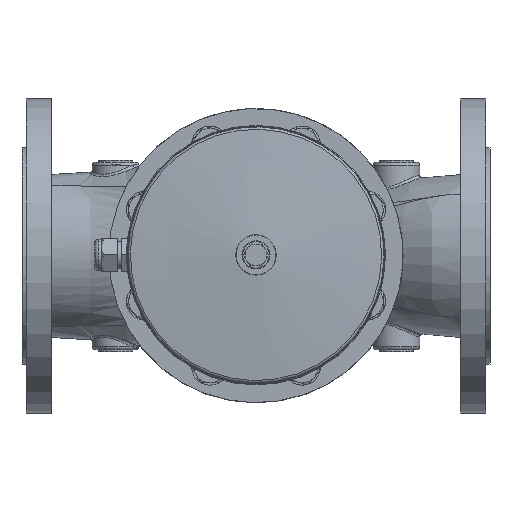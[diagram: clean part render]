
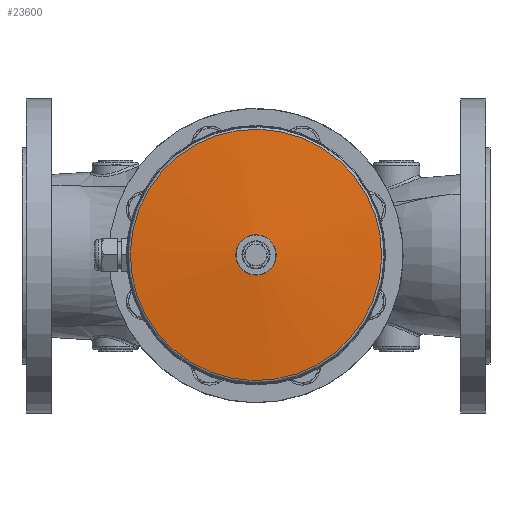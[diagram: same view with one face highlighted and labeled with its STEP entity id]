
A CAD part, top view. The second image highlights one B-rep face of the part: STEP entity #23600.
In plain terms, the highlighted conical face has half-angle 84.937 degrees and reference radius 55.344 mm.
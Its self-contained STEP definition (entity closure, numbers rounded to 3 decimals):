
#23538=CARTESIAN_POINT('',(-93.963,2.186,454.571));
#23539=VERTEX_POINT('',#23538);
#23540=CARTESIAN_POINT('',(0.,0.,454.571));
#23541=DIRECTION('',(0.,0.,-1.));
#23542=DIRECTION('',(1.,-0.023,0.));
#23543=AXIS2_PLACEMENT_3D('',#23540,#23541,#23542);
#23544=CIRCLE('',#23543,93.988);
#23545=EDGE_CURVE('',#23539,#23539,#23544,.T.);
#23581=CARTESIAN_POINT('',(0.,0.,457.995));
#23582=DIRECTION('',(0.,0.,-1.0));
#23583=DIRECTION('',(-1.,0.023,0.));
#23584=AXIS2_PLACEMENT_3D('',#23581,#23582,#23583);
#23585=CONICAL_SURFACE('',#23584,55.344,84.937);
#23586=ORIENTED_EDGE('',*,*,#23545,.F.);
#23587=EDGE_LOOP('',(#23586));
#23588=FACE_OUTER_BOUND('',#23587,.T.);
#23589=CARTESIAN_POINT('',(-15.084,0.351,461.562));
#23590=VERTEX_POINT('',#23589);
#23591=CARTESIAN_POINT('',(0.,0.,461.562));
#23592=DIRECTION('',(0.,0.,1.0));
#23593=DIRECTION('',(1.,-0.023,0.));
#23594=AXIS2_PLACEMENT_3D('',#23591,#23592,#23593);
#23595=CIRCLE('',#23594,15.088);
#23596=EDGE_CURVE('',#23590,#23590,#23595,.T.);
#23597=ORIENTED_EDGE('',*,*,#23596,.F.);
#23598=EDGE_LOOP('',(#23597));
#23599=FACE_BOUND('',#23598,.T.);
#23600=ADVANCED_FACE('',(#23588,#23599),#23585,.T.);
